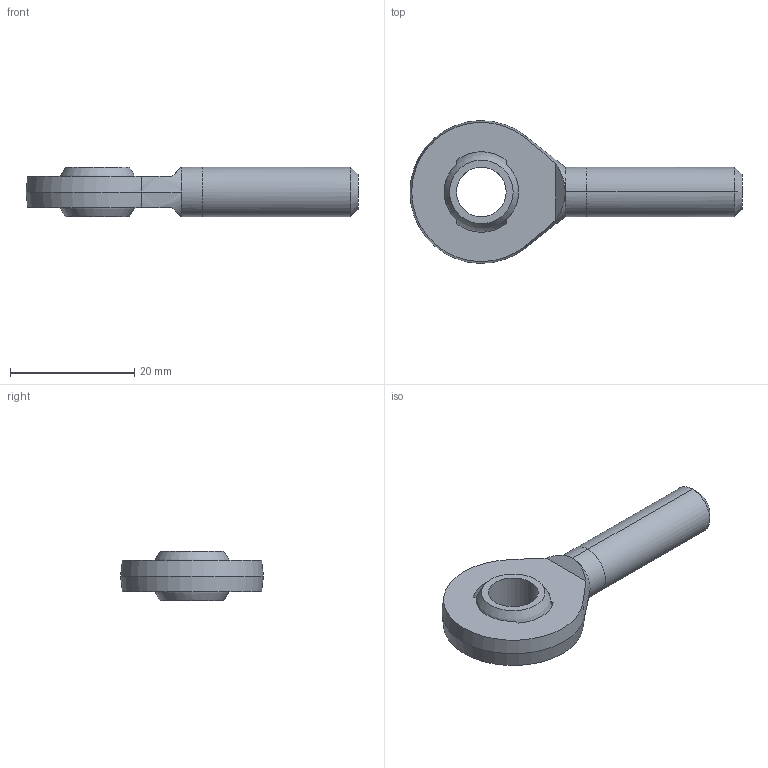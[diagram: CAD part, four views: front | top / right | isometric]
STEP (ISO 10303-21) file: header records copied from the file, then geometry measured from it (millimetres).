
FILE_DESCRIPTION (( 'STEP AP203' ), '1' );
FILE_NAME ('65860.W0008.step', '2014-02-06T11:43:18', ( 'User' ), ( '' ), 'SwSTEP 2.0', 'SolidWorks 2009', '' );
FILE_SCHEMA (( 'CONFIG_CONTROL_DESIGN' ));
Length unit declared in the file: millimetre
Products named in the file (3): Part1_65860.W0008; Part2_65860.W0008; 65860.W0008
Assembly tree (2 placements, depth 2):
  65860.W0008
    Part2_65860.W0008
    Part1_65860.W0008
Bounding box: 53.5 x 23 x 8 mm (x, y, z)
Volume: 3493.5 mm3; surface area: 2499.7 mm2
Topology: 2 solids, 2 shells, 35 faces, 82 edges, 51 vertices
Faces by surface type: plane 15, cylinder 8, sphere 8, cone 4
Entity records: 1357 total; most frequent: CARTESIAN_POINT 231, DIRECTION 196, ORIENTED_EDGE 160, AXIS2_PLACEMENT_3D 84, EDGE_CURVE 80, VERTEX_POINT 51, CIRCLE 44, EDGE_LOOP 41
